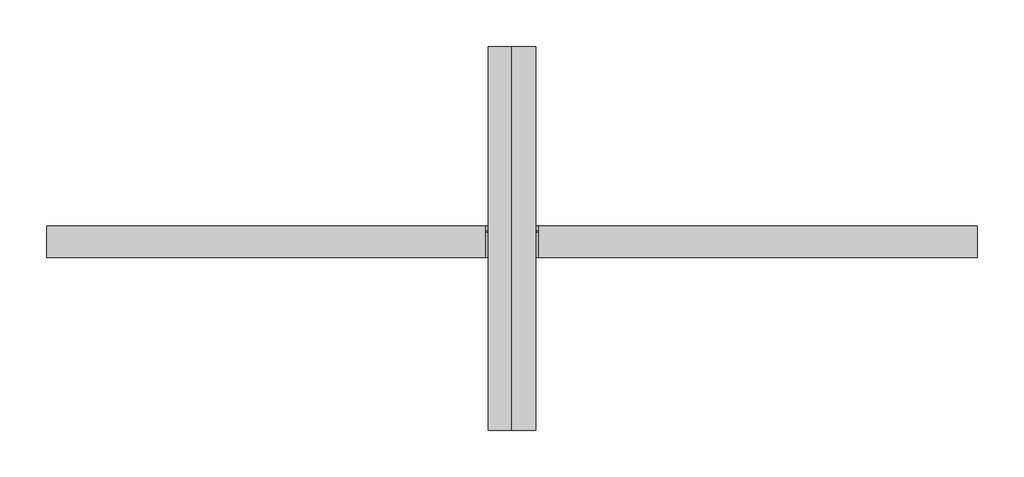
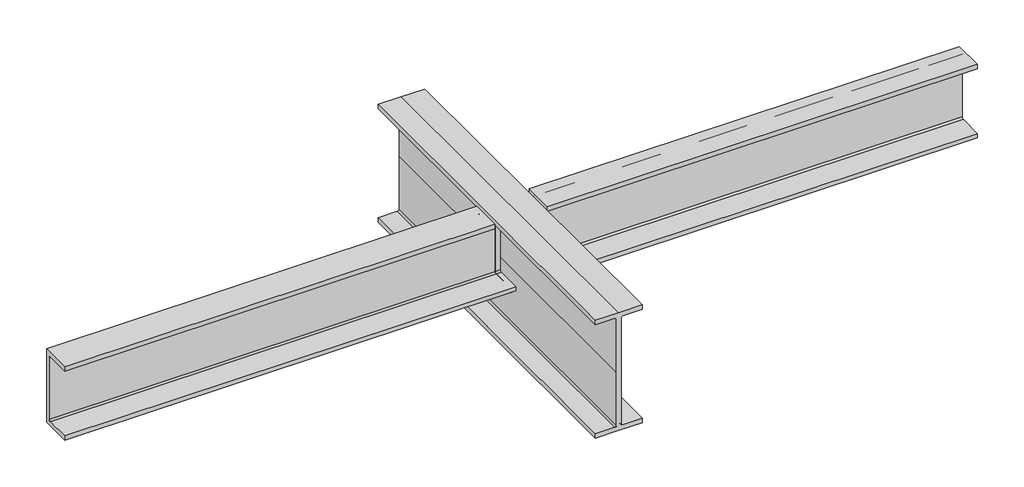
# One storey, incomplete: 3 beams.
"""IFC4 building model written with IfcOpenShell, lengths in millimetres."""

from ifc_helpers import new_model, si_unit, frame, origin, place, context, project, spatial, polyline, circle_curve, transform, mapped, element, save
from ifc_brep_helpers import plane_surface, revolved_surface, advanced_brep
from components import beam_60eefc38

model = new_model("IFC4")

# Units and contexts
model_context = context("Model", 3, world=origin())
ifc_project = project(units=[si_unit("LENGTHUNIT", "METRE", prefix="MILLI")], contexts=[model_context])

# Site, building, storey
site = spatial("IfcSite", under=ifc_project)
building = spatial("IfcBuilding", under=site)
storey = spatial("IfcBuildingStorey", under=building, Name="标高 2", Elevation=3000.0)

# Beams
placement = place(None, origin())
element("IfcBeam", 1, ObjectType="槽型钢梁 : 槽型钢梁", at=placement, inside=storey, context=model_context, shape_type="AdvancedBrep", body=[
    advanced_brep(
    [(-11658.2717506, 4386.3036296, 2540.0), (-11658.2717506, 4376.3036296, 2530.0), (-11658.2717506, 4216.3036296, 2530.0), (-11658.2717506, 4216.3036296, 2500.0), (-11658.2717506, 4416.3036296, 2500.0), (-11658.2717506, 4416.3036296, 2950.0), (-11658.2717506, 4386.3036296, 2950.0), (-11691.2784663, 4386.3036296, 2950.0), (-11691.2784663, 4386.3036296, 2600.0), (-11691.2784663, 4386.3036296, 2540.0), (-11691.2784663, 4376.3036296, 2530.0), (-11691.2784663, 4216.3036296, 2530.0), (-11691.2784663, 4216.3036296, 2500.0), (-11691.2784663, 4416.3036296, 2500.0), (-11691.2784663, 4416.3036296, 2600.0), (-11691.2784663, 4416.3036296, 2950.0)],
    [
        (0, 1, circle_curve(frame((-11658.2717506, 4376.3036296, 2540.0), z_axis=(-1.0, 0.0, 0.0), x_axis=(0.0, 1.0, 0.0)), 10.0)),
        (1, 2),
        (2, 3),
        (3, 4),
        (4, 5),
        (5, 6),
        (6, 0),
        (6, 7),
        (7, 8),
        (8, 9),
        (9, 0),
        (9, 10, circle_curve(frame((-11691.2784663, 4376.3036296, 2540.0), z_axis=(-1.0, 0.0, 0.0), x_axis=(0.0, 1.0, 0.0)), 10.0)),
        (10, 1),
        (10, 11),
        (11, 2),
        (11, 12),
        (12, 3),
        (12, 13),
        (13, 4),
        (13, 14),
        (14, 15),
        (15, 5),
        (15, 7),
        (14, 8),
    ],
    [
        plane_surface(frame((-11658.2717506, 4216.3036296, 3000.0), z_axis=(1.0, 0.0, 0.0), x_axis=(0.0, 0.0, -1.0))),
        plane_surface(frame((-11658.2717506, 4386.3036296, 2960.0), z_axis=(0.0, -1.0, 0.0), x_axis=(-1.0, 0.0, 0.0))),
        revolved_surface(polyline([(-11691.2784663, 4386.3036296, 2540.0), (-11658.2717506, 4386.3036296, 2540.0)]), (-14659.8259281, 4376.3036296, 2540.0), (-1.0, 0.0, 0.0)),
        plane_surface(frame((-11658.2717506, 4376.3036296, 2530.0), z_axis=(0.0, 0.0, 1.0), x_axis=(-1.0, 0.0, 0.0))),
        plane_surface(frame((-11658.2717506, 4216.3036296, 2530.0), z_axis=(0.0, -1.0, 0.0), x_axis=(-1.0, 0.0, 0.0))),
        plane_surface(frame((-11658.2717506, 4216.3036296, 2500.0), z_axis=(0.0, 0.0, -1.0), x_axis=(-1.0, 0.0, 0.0))),
        plane_surface(frame((-11658.2717506, 4416.3036296, 2500.0), z_axis=(0.0, 1.0, 0.0), x_axis=(-1.0, 0.0, 0.0))),
        plane_surface(frame((-11556.2784663, 5567.579312, 2950.0), z_axis=(0.0, 0.0, 1.0), x_axis=(0.0, -1.0, 0.0))),
        plane_surface(frame((-11691.2784663, 5567.579312, 2950.0), z_axis=(-1.0, 0.0, 0.0), x_axis=(0.0, -1.0, 0.0))),
        plane_surface(frame((-11691.2784663, 5567.579312, 2600.0), z_axis=(-1.0, 0.0, 0.0), x_axis=(0.0, -1.0, 0.0))),
    ],
    [
        (0, [[1, 2, 3, 4, 5, 6, 7]]),
        (1, [[-7, 8, 9, 10, 11]]),
        (2, [[-1, -11, 12, 13]]),
        (3, [[-2, -13, 14, 15]]),
        (4, [[-3, -15, 16, 17]]),
        (5, [[-4, -17, 18, 19]]),
        (6, [[-5, -19, 20, 21, 22]]),
        (7, [[23, -8, -6, -22]]),
        (8, [[-23, -21, 24, -9]]),
        (9, [[-24, -20, -18, -16, -14, -12, -10]]),
    ],
),
    advanced_brep(
    [(-14659.8259281, 4216.3036296, 3000.0), (-14659.8259281, 4416.3036296, 3000.0), (-14659.8259281, 4416.3036296, 2500.0), (-14659.8259281, 4216.3036296, 2500.0), (-14659.8259281, 4216.3036296, 2530.0), (-14659.8259281, 4376.3036296, 2530.0), (-14659.8259281, 4386.3036296, 2540.0), (-14659.8259281, 4386.3036296, 2960.0), (-14659.8259281, 4376.3036296, 2970.0), (-14659.8259281, 4216.3036296, 2970.0), (-11896.2784663, 4216.3036296, 2970.0), (-11896.2784663, 4216.3036296, 3000.0), (-11896.2784663, 4376.3036296, 2970.0), (-11896.2784663, 4386.3036296, 2960.0), (-11896.2784663, 4416.3036296, 3000.0), (-11761.2784663, 4386.3036296, 2540.0), (-11761.2784663, 4386.3036296, 2600.0), (-11761.2784663, 4386.3036296, 2950.0), (-11896.2784663, 4386.3036296, 2950.0), (-11761.2784663, 4376.3036296, 2530.0), (-11761.2784663, 4216.3036296, 2530.0), (-11761.2784663, 4216.3036296, 2500.0), (-11761.2784663, 4416.3036296, 2500.0), (-11896.2784663, 4416.3036296, 2950.0), (-11761.2784663, 4416.3036296, 2950.0), (-11761.2784663, 4416.3036296, 2600.0)],
    [
        (0, 1),
        (1, 2),
        (2, 3),
        (3, 4),
        (4, 5),
        (5, 6, circle_curve(frame((-14659.8259281, 4376.3036296, 2540.0), z_axis=(1.0, 0.0, 0.0), x_axis=(0.0, 1.0, 0.0)), 10.0)),
        (6, 7),
        (7, 8, circle_curve(frame((-14659.8259281, 4376.3036296, 2960.0), z_axis=(1.0, 0.0, 0.0), x_axis=(0.0, 1.0, 0.0)), 10.0)),
        (8, 9),
        (9, 0),
        (9, 10),
        (10, 11),
        (11, 0),
        (8, 12),
        (12, 10),
        (7, 13),
        (13, 12, circle_curve(frame((-11896.2784663, 4376.3036296, 2960.0), z_axis=(1.0, 0.0, 0.0), x_axis=(0.0, 1.0, 0.0)), 10.0)),
        (11, 14),
        (14, 1),
        (6, 15),
        (15, 16),
        (16, 17),
        (17, 18),
        (18, 13),
        (5, 19),
        (19, 15, circle_curve(frame((-11761.2784663, 4376.3036296, 2540.0), z_axis=(1.0, 0.0, 0.0), x_axis=(0.0, 1.0, 0.0)), 10.0)),
        (4, 20),
        (20, 19),
        (3, 21),
        (21, 20),
        (2, 22),
        (22, 21),
        (14, 23),
        (23, 24),
        (24, 25),
        (25, 22),
        (25, 16),
        (24, 17),
        (23, 18),
    ],
    [
        plane_surface(frame((-14659.8259281, 4216.3036296, 3000.0), z_axis=(-1.0, 0.0, 0.0), x_axis=(0.0, 0.0, 1.0))),
        plane_surface(frame((-11658.2717506, 4216.3036296, 3000.0), z_axis=(0.0, -1.0, 0.0), x_axis=(-1.0, 0.0, 0.0))),
        plane_surface(frame((-11658.2717506, 4216.3036296, 2970.0), z_axis=(0.0, 0.0, -1.0), x_axis=(-1.0, 0.0, 0.0))),
        revolved_surface(polyline([(-14659.8259281, 4386.3036296, 2960.0), (-11896.2784663, 4386.3036296, 2960.0)]), (-14659.8259281, 4376.3036296, 2960.0), (-1.0, 0.0, 0.0)),
        plane_surface(frame((-11658.2717506, 4416.3036296, 3000.0), z_axis=(0.0, 0.0, 1.0), x_axis=(-1.0, 0.0, 0.0))),
        plane_surface(frame((-11658.2717506, 4386.3036296, 2960.0), z_axis=(0.0, -1.0, 0.0), x_axis=(-1.0, 0.0, 0.0))),
        revolved_surface(polyline([(-14659.8259281, 4386.3036296, 2540.0), (-11761.2784663, 4386.3036296, 2540.0)]), (-14659.8259281, 4376.3036296, 2540.0), (-1.0, 0.0, 0.0)),
        plane_surface(frame((-11658.2717506, 4376.3036296, 2530.0), z_axis=(0.0, 0.0, 1.0), x_axis=(-1.0, 0.0, 0.0))),
        plane_surface(frame((-11658.2717506, 4216.3036296, 2530.0), z_axis=(0.0, -1.0, 0.0), x_axis=(-1.0, 0.0, 0.0))),
        plane_surface(frame((-11658.2717506, 4216.3036296, 2500.0), z_axis=(0.0, 0.0, -1.0), x_axis=(-1.0, 0.0, 0.0))),
        plane_surface(frame((-11658.2717506, 4416.3036296, 2500.0), z_axis=(0.0, 1.0, 0.0), x_axis=(-1.0, 0.0, 0.0))),
        plane_surface(frame((-11761.2784663, 5567.579312, 2250.0), z_axis=(1.0, 0.0, 0.0), x_axis=(0.0, -1.0, 0.0))),
        plane_surface(frame((-11761.2784663, 5567.579312, 2600.0), z_axis=(1.0, 0.0, 0.0), x_axis=(0.0, -1.0, 0.0))),
        plane_surface(frame((-11761.2784663, 5567.579312, 2950.0), z_axis=(0.0, 0.0, 1.0), x_axis=(0.0, -1.0, 0.0))),
        plane_surface(frame((-11896.2784663, 5567.579312, 2950.0), z_axis=(1.0, 0.0, 0.0), x_axis=(0.0, -1.0, 0.0))),
    ],
    [
        (0, [[1, 2, 3, 4, 5, 6, 7, 8, 9, 10]]),
        (1, [[-10, 11, 12, 13]]),
        (2, [[-9, 14, 15, -11]]),
        (3, [[-8, 16, 17, -14]]),
        (4, [[-1, -13, 18, 19]]),
        (5, [[-7, 20, 21, 22, 23, 24, -16]]),
        (6, [[-6, 25, 26, -20]]),
        (7, [[-5, 27, 28, -25]]),
        (8, [[-4, 29, 30, -27]]),
        (9, [[-3, 31, 32, -29]]),
        (10, [[-2, -19, 33, 34, 35, 36, -31]]),
        (11, [[37, -21, -26, -28, -30, -32, -36]]),
        (12, [[-37, -35, 38, -22]]),
        (13, [[-38, -34, 39, -23]]),
        (14, [[-39, -33, -18, -12, -15, -17, -24]]),
    ],
),
])
element("IfcBeam", 2, ObjectType="槽型钢梁 : 槽型钢梁", at=placement, inside=storey, context=model_context, shape_type="AdvancedBrep", body=[
    advanced_brep(
    [(-11794.285182, 4416.3036296, 2500.0), (-11794.285182, 4216.3036296, 2500.0), (-11794.285182, 4216.3036296, 2530.0), (-11794.285182, 4376.3036296, 2530.0), (-11794.285182, 4386.3036296, 2540.0), (-11794.285182, 4386.3036296, 2950.0), (-11794.285182, 4416.3036296, 2950.0), (-11761.2784663, 4386.3036296, 2540.0), (-11761.2784663, 4386.3036296, 2600.0), (-11761.2784663, 4386.3036296, 2950.0), (-11761.2784663, 4216.3036296, 2530.0), (-11761.2784663, 4376.3036296, 2530.0), (-11761.2784663, 4216.3036296, 2500.0), (-11761.2784663, 4416.3036296, 2500.0), (-11761.2784663, 4416.3036296, 2950.0), (-11761.2784663, 4416.3036296, 2600.0)],
    [
        (0, 1),
        (1, 2),
        (2, 3),
        (3, 4, circle_curve(frame((-11794.285182, 4376.3036296, 2540.0), z_axis=(1.0, 0.0, 0.0), x_axis=(0.0, 1.0, 0.0)), 10.0)),
        (4, 5),
        (5, 6),
        (6, 0),
        (4, 7),
        (7, 8),
        (8, 9),
        (9, 5),
        (2, 10),
        (10, 11),
        (11, 3),
        (1, 12),
        (12, 10),
        (0, 13),
        (13, 12),
        (6, 14),
        (14, 15),
        (15, 13),
        (11, 7, circle_curve(frame((-11761.2784663, 4376.3036296, 2540.0), z_axis=(1.0, 0.0, 0.0), x_axis=(0.0, 1.0, 0.0)), 10.0)),
        (15, 8),
        (14, 9),
    ],
    [
        plane_surface(frame((-11794.285182, 4216.3036296, 3000.0), z_axis=(-1.0, 0.0, 0.0), x_axis=(0.0, 0.0, -1.0))),
        plane_surface(frame((-11794.285182, 4386.3036296, 2960.0), z_axis=(0.0, -1.0, 0.0), x_axis=(1.0, 0.0, 0.0))),
        plane_surface(frame((-11794.285182, 4376.3036296, 2530.0), z_axis=(0.0, 0.0, 1.0), x_axis=(1.0, 0.0, 0.0))),
        plane_surface(frame((-11794.285182, 4216.3036296, 2530.0), z_axis=(0.0, -1.0, 0.0), x_axis=(1.0, 0.0, 0.0))),
        plane_surface(frame((-11794.285182, 4216.3036296, 2500.0), z_axis=(0.0, 0.0, -1.0), x_axis=(1.0, 0.0, 0.0))),
        plane_surface(frame((-11794.285182, 4416.3036296, 2500.0), z_axis=(0.0, 1.0, 0.0), x_axis=(1.0, 0.0, 0.0))),
        revolved_surface(polyline([(-11761.2784663, 4386.3036296, 2540.0), (-11794.285182, 4386.3036296, 2540.0)]), (-8792.7310045, 4376.3036296, 2540.0), (1.0, 0.0, 0.0)),
        plane_surface(frame((-11761.2784663, 5567.579312, 2250.0), z_axis=(1.0, 0.0, 0.0), x_axis=(0.0, -1.0, 0.0))),
        plane_surface(frame((-11761.2784663, 5567.579312, 2600.0), z_axis=(1.0, 0.0, 0.0), x_axis=(0.0, -1.0, 0.0))),
        plane_surface(frame((-11761.2784663, 5567.579312, 2950.0), z_axis=(0.0, 0.0, 1.0), x_axis=(0.0, -1.0, 0.0))),
    ],
    [
        (0, [[1, 2, 3, 4, 5, 6, 7]]),
        (1, [[-5, 8, 9, 10, 11]]),
        (2, [[-3, 12, 13, 14]]),
        (3, [[-2, 15, 16, -12]]),
        (4, [[-1, 17, 18, -15]]),
        (5, [[-7, 19, 20, 21, -17]]),
        (6, [[-4, -14, 22, -8]]),
        (7, [[23, -9, -22, -13, -16, -18, -21]]),
        (8, [[-23, -20, 24, -10]]),
        (9, [[-24, -19, -6, -11]]),
    ],
),
    advanced_brep(
    [(-8792.7310045, 4216.3036296, 3000.0), (-8792.7310045, 4216.3036296, 2970.0), (-8792.7310045, 4376.3036296, 2970.0), (-8792.7310045, 4386.3036296, 2960.0), (-8792.7310045, 4386.3036296, 2540.0), (-8792.7310045, 4376.3036296, 2530.0), (-8792.7310045, 4216.3036296, 2530.0), (-8792.7310045, 4216.3036296, 2500.0), (-8792.7310045, 4416.3036296, 2500.0), (-8792.7310045, 4416.3036296, 3000.0), (-11556.2784663, 4216.3036296, 3000.0), (-11556.2784663, 4216.3036296, 2970.0), (-11556.2784663, 4376.3036296, 2970.0), (-11556.2784663, 4386.3036296, 2960.0), (-11691.2784663, 4386.3036296, 2540.0), (-11691.2784663, 4376.3036296, 2530.0), (-11556.2784663, 4416.3036296, 3000.0), (-11556.2784663, 4386.3036296, 2950.0), (-11691.2784663, 4386.3036296, 2950.0), (-11691.2784663, 4386.3036296, 2600.0), (-11691.2784663, 4216.3036296, 2530.0), (-11691.2784663, 4216.3036296, 2500.0), (-11691.2784663, 4416.3036296, 2500.0), (-11691.2784663, 4416.3036296, 2600.0), (-11691.2784663, 4416.3036296, 2950.0), (-11556.2784663, 4416.3036296, 2950.0)],
    [
        (0, 1),
        (1, 2),
        (2, 3, circle_curve(frame((-8792.7310045, 4376.3036296, 2960.0), z_axis=(-1.0, 0.0, 0.0), x_axis=(0.0, 1.0, 0.0)), 10.0)),
        (3, 4),
        (4, 5, circle_curve(frame((-8792.7310045, 4376.3036296, 2540.0), z_axis=(-1.0, 0.0, 0.0), x_axis=(0.0, 1.0, 0.0)), 10.0)),
        (5, 6),
        (6, 7),
        (7, 8),
        (8, 9),
        (9, 0),
        (0, 10),
        (10, 11),
        (11, 1),
        (11, 12),
        (12, 2),
        (12, 13, circle_curve(frame((-11556.2784663, 4376.3036296, 2960.0), z_axis=(-1.0, 0.0, 0.0), x_axis=(0.0, 1.0, 0.0)), 10.0)),
        (13, 3),
        (4, 14),
        (14, 15, circle_curve(frame((-11691.2784663, 4376.3036296, 2540.0), z_axis=(-1.0, 0.0, 0.0), x_axis=(0.0, 1.0, 0.0)), 10.0)),
        (15, 5),
        (9, 16),
        (16, 10),
        (13, 17),
        (17, 18),
        (18, 19),
        (19, 14),
        (15, 20),
        (20, 6),
        (20, 21),
        (21, 7),
        (21, 22),
        (22, 8),
        (22, 23),
        (23, 24),
        (24, 25),
        (25, 16),
        (25, 17),
        (24, 18),
        (23, 19),
    ],
    [
        plane_surface(frame((-8792.7310045, 4216.3036296, 3000.0), z_axis=(1.0, 0.0, 0.0), x_axis=(0.0, 0.0, 1.0))),
        plane_surface(frame((-11794.285182, 4216.3036296, 3000.0), z_axis=(0.0, -1.0, 0.0), x_axis=(1.0, 0.0, 0.0))),
        plane_surface(frame((-11794.285182, 4216.3036296, 2970.0), z_axis=(0.0, 0.0, -1.0), x_axis=(1.0, 0.0, 0.0))),
        revolved_surface(polyline([(-8792.7310045, 4386.3036296, 2960.0), (-11556.2784663, 4386.3036296, 2960.0)]), (-8792.7310045, 4376.3036296, 2960.0), (1.0, 0.0, 0.0)),
        revolved_surface(polyline([(-8792.7310045, 4386.3036296, 2540.0), (-11691.2784663, 4386.3036296, 2540.0)]), (-8792.7310045, 4376.3036296, 2540.0), (1.0, 0.0, 0.0)),
        plane_surface(frame((-11794.285182, 4416.3036296, 3000.0), z_axis=(0.0, 0.0, 1.0), x_axis=(1.0, 0.0, 0.0))),
        plane_surface(frame((-11794.285182, 4386.3036296, 2960.0), z_axis=(0.0, -1.0, 0.0), x_axis=(1.0, 0.0, 0.0))),
        plane_surface(frame((-11794.285182, 4376.3036296, 2530.0), z_axis=(0.0, 0.0, 1.0), x_axis=(1.0, 0.0, 0.0))),
        plane_surface(frame((-11794.285182, 4216.3036296, 2530.0), z_axis=(0.0, -1.0, 0.0), x_axis=(1.0, 0.0, 0.0))),
        plane_surface(frame((-11794.285182, 4216.3036296, 2500.0), z_axis=(0.0, 0.0, -1.0), x_axis=(1.0, 0.0, 0.0))),
        plane_surface(frame((-11794.285182, 4416.3036296, 2500.0), z_axis=(0.0, 1.0, 0.0), x_axis=(1.0, 0.0, 0.0))),
        plane_surface(frame((-11556.2784663, 5567.579312, 3020.0), z_axis=(-1.0, 0.0, 0.0), x_axis=(0.0, -1.0, 0.0))),
        plane_surface(frame((-11556.2784663, 5567.579312, 2950.0), z_axis=(0.0, 0.0, 1.0), x_axis=(0.0, -1.0, 0.0))),
        plane_surface(frame((-11691.2784663, 5567.579312, 2950.0), z_axis=(-1.0, 0.0, 0.0), x_axis=(0.0, -1.0, 0.0))),
        plane_surface(frame((-11691.2784663, 5567.579312, 2600.0), z_axis=(-1.0, 0.0, 0.0), x_axis=(0.0, -1.0, 0.0))),
    ],
    [
        (0, [[1, 2, 3, 4, 5, 6, 7, 8, 9, 10]]),
        (1, [[-1, 11, 12, 13]]),
        (2, [[-2, -13, 14, 15]]),
        (3, [[-3, -15, 16, 17]]),
        (4, [[-5, 18, 19, 20]]),
        (5, [[-10, 21, 22, -11]]),
        (6, [[-4, -17, 23, 24, 25, 26, -18]]),
        (7, [[-6, -20, 27, 28]]),
        (8, [[-7, -28, 29, 30]]),
        (9, [[-8, -30, 31, 32]]),
        (10, [[-9, -32, 33, 34, 35, 36, -21]]),
        (11, [[37, -23, -16, -14, -12, -22, -36]]),
        (12, [[-37, -35, 38, -24]]),
        (13, [[-38, -34, 39, -25]]),
        (14, [[-39, -33, -31, -29, -27, -19, -26]]),
    ],
),
])
beam_shape = beam_60eefc38(model_context)
element("IfcBeam", 3, ObjectType="工字型钢梁 : 工字型钢梁", at=placement, inside=storey, context=model_context, shape_type="MappedRepresentation", body=[
    mapped(beam_shape, transform((-11726.2784663, 4337.579312, 2600.0), x_axis=(0.0, -1.0, 0.0), y_axis=(1.0, 0.0, 0.0), z_axis=(0.0, 0.0, 1.0))),
])

save(model, "model.ifc")
